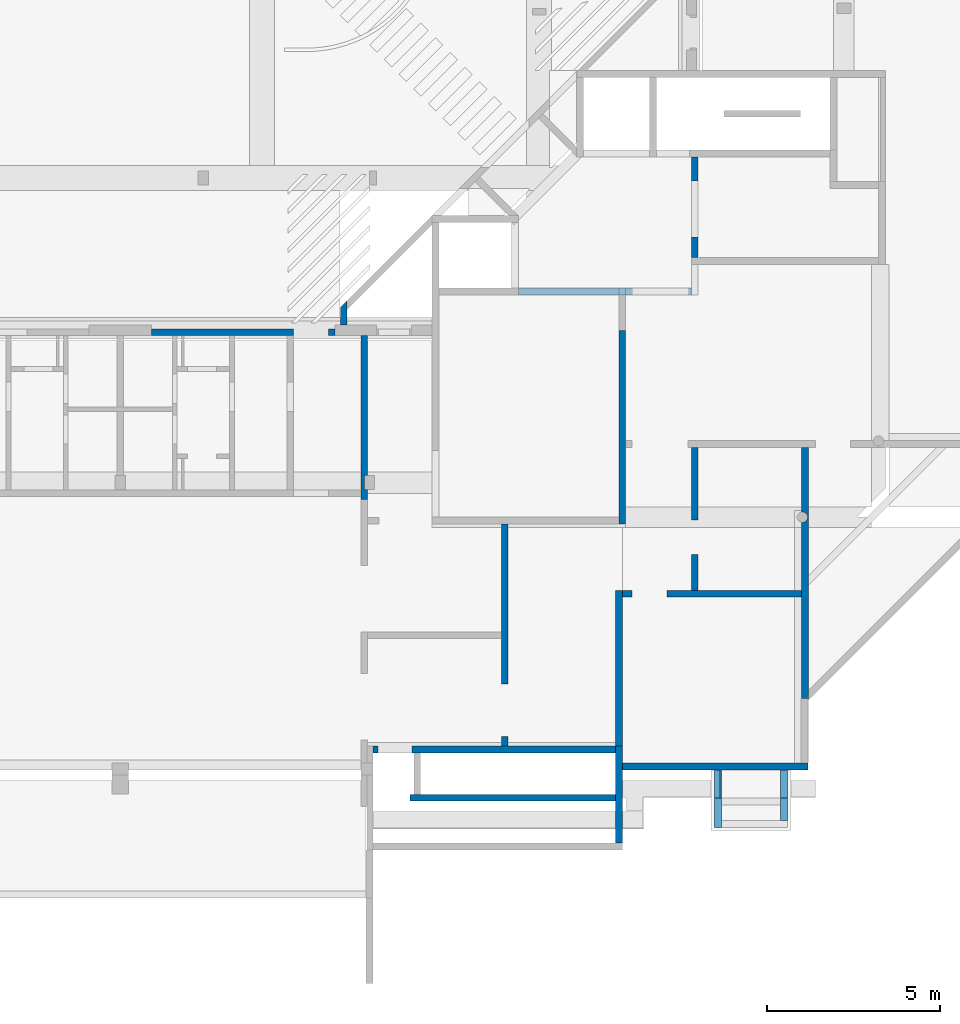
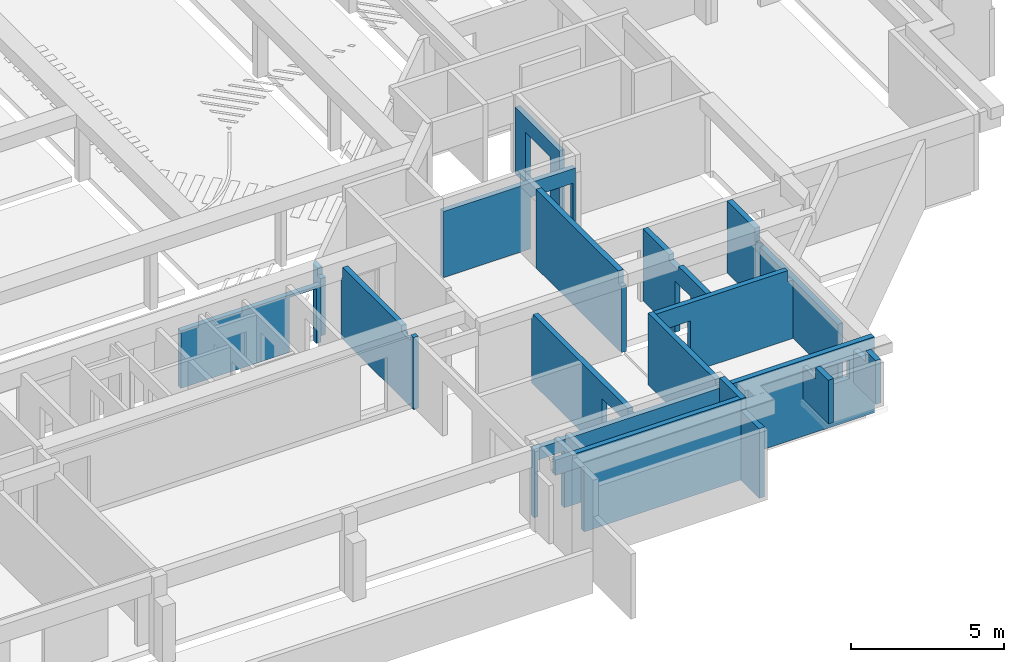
# One storey, part 16 of 22: 17 walls.
"""IFC4X3_ADD2 building model written with IfcOpenShell, lengths in millimetres."""

import ifcopenshell
import ifcopenshell.guid

model = None  # the IFC model being written
_history = None  # IfcOwnerHistory: only IFC2X3 demands one
_inside = {}  # id of a spatial element -> (the spatial element, [elements in it])
_under = {}  # id of a project, library or spatial element -> (it, [spatial elements below it])
_declared = {}  # id of a project -> (the project, [libraries it declares])
_typed = {}  # id of a type object -> (the type object, [elements of that type])
_made_of = {}  # id of a material, layer set ... -> (it, [elements and type objects made of it])


def new_model(schema):
    """Start an empty IFC model of exactly this schema.

    Asked for "IFC4X3", IfcOpenShell would pick the latest addendum, in which some entities
    have other attributes; the version numbers below select the first issue.
    IFC2X3 requires an IfcOwnerHistory on every rooted entity: one is made here for all.
    """
    global model, _history
    if schema == "IFC4X3":
        model = ifcopenshell.file(schema_version=(4, 3, 0, 0))
    else:
        model = ifcopenshell.file(schema=schema)
    _inside.clear()
    _under.clear()
    _declared.clear()
    _typed.clear()
    _made_of.clear()
    _history = None
    if model.schema == "IFC2X3":
        org = make("IfcOrganization", Name="unknown")
        user = make(
            "IfcPersonAndOrganization",
            ThePerson=make("IfcPerson", FamilyName="unknown"),
            TheOrganization=org,
        )
        app = make(
            "IfcApplication",
            ApplicationDeveloper=org,
            Version="unknown",
            ApplicationFullName="unknown",
            ApplicationIdentifier="unknown",
        )
        _history = make(
            "IfcOwnerHistory",
            OwningUser=user,
            OwningApplication=app,
            ChangeAction="ADDED",
            CreationDate=0,
        )
    return model


def make(cls, **values):
    """One entity of the class cls with the attributes given. An attribute that is None is left unset."""
    return model.create_entity(
        cls, **{name: value for name, value in values.items() if value is not None}
    )


def rooted(cls, **values):
    """An entity with a GlobalId (a new one), such as an element, a storey or a relation."""
    return make(cls, GlobalId=ifcopenshell.guid.new(), OwnerHistory=_history, **values)


def si_unit(unit_type, name, prefix=None):
    """IfcSIUnit, for example si_unit("LENGTHUNIT", "METRE", prefix="MILLI")."""
    return make("IfcSIUnit", UnitType=unit_type, Prefix=prefix, Name=name)


def assignment(units):
    """IfcUnitAssignment: the units of a project."""
    return None if units is None else make("IfcUnitAssignment", Units=units)


def point(xyz):
    """IfcCartesianPoint."""
    return None if xyz is None else make("IfcCartesianPoint", Coordinates=xyz)


def direction(xyz):
    """IfcDirection."""
    return None if xyz is None else make("IfcDirection", DirectionRatios=xyz)


def frame(location, z_axis=None, x_axis=None):
    """IfcAxis2Placement3D, a coordinate frame: its origin and axes. An axis left out is left unset."""
    return make(
        "IfcAxis2Placement3D",
        Location=point(location),
        Axis=direction(z_axis),
        RefDirection=direction(x_axis),
    )


def origin_with_axes():
    """The frame at (0, 0, 0) with the z axis (0, 0, 1) and the x axis (1, 0, 0) written out."""
    return frame((0.0, 0.0, 0.0), z_axis=(0.0, 0.0, 1.0), x_axis=(1.0, 0.0, 0.0))


def place(relative_to, where):
    """IfcLocalPlacement: puts the frame where relative to a parent placement (None: the world)."""
    return make(
        "IfcLocalPlacement", PlacementRelTo=relative_to, RelativePlacement=where
    )


def context(
    kind, dimensions, precision=None, world=None, true_north=None, identifier=None
):
    """IfcGeometricRepresentationContext, for example the 3D "Model" context."""
    return make(
        "IfcGeometricRepresentationContext",
        ContextIdentifier=identifier,
        ContextType=kind,
        CoordinateSpaceDimension=dimensions,
        Precision=precision,
        WorldCoordinateSystem=world,
        TrueNorth=true_north,
    )


def subcontext(parent, identifier, kind, view, scale=None):
    """IfcGeometricRepresentationSubContext, for example "Body" below "Model"."""
    return make(
        "IfcGeometricRepresentationSubContext",
        ContextIdentifier=identifier,
        ContextType=kind,
        ParentContext=parent,
        TargetScale=scale,
        TargetView=view,
    )


def project(units=None, contexts=None):
    """IfcProject with its units and contexts."""
    return rooted(
        "IfcProject",
        Name="project",
        RepresentationContexts=contexts,
        UnitsInContext=assignment(units),
    )


def spatial(cls, under=None, at=None, **own):
    """A site, building, storey or space (cls), placed at a placement, below another one or the project."""
    s = rooted(cls, ObjectPlacement=at, **own)
    if under is not None:
        _under.setdefault(under.id(), (under, []))[1].append(s)
    return s


def point_list(points):
    """IfcCartesianPointList2D or 3D."""
    cls = (
        "IfcCartesianPointList2D" if len(points[0]) == 2 else "IfcCartesianPointList3D"
    )
    return make(cls, CoordList=points)


def polygons(points, faces, closed=None, point_numbers=None):
    """IfcPolygonalFaceSet: a face is its outer loop, then its inner loops; points numbered from 1."""
    made = []
    for loops in faces:
        if len(loops) == 1:
            made.append(make("IfcIndexedPolygonalFace", CoordIndex=loops[0]))
        else:
            made.append(
                make(
                    "IfcIndexedPolygonalFaceWithVoids",
                    CoordIndex=loops[0],
                    InnerCoordIndices=loops[1:],
                )
            )
    return make(
        "IfcPolygonalFaceSet",
        Coordinates=point_list(points),
        Closed=closed,
        Faces=made,
        PnIndex=point_numbers,
    )


def shape(context_of_items, identifier, shape_type, items):
    """IfcShapeRepresentation: the items that make up one representation, for example the "Body"."""
    return make(
        "IfcShapeRepresentation",
        ContextOfItems=context_of_items,
        RepresentationIdentifier=identifier,
        RepresentationType=shape_type,
        Items=items,
    )


def made_of(thing, what):
    """Note that an element or type object is made of a material, layer set ...; save() writes the relation."""
    if what is not None:
        _made_of.setdefault(what.id(), (what, []))[1].append(thing)
    return thing


def element(
    cls,
    number,
    at=None,
    inside=None,
    cuts=None,
    type_object=None,
    material=None,
    context=None,
    identifier="Body",
    shape_type=None,
    held_by="IfcProductDefinitionShape",
    body=None,
    shapes=None,
    **own,
):
    """One element of the class cls, such as IfcWall. Its Tag is "e" and its number.

    at: its placement. inside: the storey or other place that contains it. cuts: it is an
    opening in that element (IfcRelVoidsElement). A single representation is given by context,
    identifier, shape_type and body (its items); several are given by shapes. held_by: the class
    of the entity that holds the representations. save() writes the other relations.
    """
    e = rooted(cls, Tag="e%d" % number, ObjectPlacement=at, **own)
    if body is not None:
        shapes = [shape(context, identifier, shape_type, body)]
    if shapes is not None:
        e.Representation = make(held_by, Representations=shapes)
    if inside is not None:
        _inside.setdefault(inside.id(), (inside, []))[1].append(e)
    if cuts is not None:
        rooted(
            "IfcRelVoidsElement", RelatingBuildingElement=cuts, RelatedOpeningElement=e
        )
    if type_object is not None:
        _typed.setdefault(type_object.id(), (type_object, []))[1].append(e)
    return made_of(e, material)


def aggregate(whole, parts):
    """IfcRelAggregates: a whole, such as a stair, and the parts it consists of."""
    return rooted("IfcRelAggregates", RelatingObject=whole, RelatedObjects=parts)


def save(model, path):
    """Write the relations noted so far, then the file.

    IfcRelAggregates (storeys below a building ...), IfcRelContainedInSpatialStructure (elements
    in a storey), IfcRelDefinesByType, IfcRelAssociatesMaterial and IfcRelDeclares: one each for
    every whole, place, type object, material and project.
    """
    for whole, parts in _under.values():
        aggregate(whole, parts)
    for where, things in _inside.values():
        rooted(
            "IfcRelContainedInSpatialStructure",
            RelatedElements=things,
            RelatingStructure=where,
        )
    for kind, things in _typed.values():
        rooted("IfcRelDefinesByType", RelatedObjects=things, RelatingType=kind)
    for what, things in _made_of.values():
        rooted("IfcRelAssociatesMaterial", RelatedObjects=things, RelatingMaterial=what)
    for by, libraries in _declared.values():
        rooted("IfcRelDeclares", RelatingContext=by, RelatedDefinitions=libraries)
    model.write(path)


model = new_model("IFC4X3_ADD2")

# Units and contexts
model_context = context("Model", 3, precision=1e-05, world=origin_with_axes(), true_north=direction((0.0, 1.0)))
body_context = subcontext(model_context, "Body", "Model", "MODEL_VIEW")
ifc_project = project(units=[si_unit("LENGTHUNIT", "METRE", prefix="MILLI"), si_unit("AREAUNIT", "SQUARE_METRE"), si_unit("VOLUMEUNIT", "CUBIC_METRE"), si_unit("PLANEANGLEUNIT", "RADIAN"), si_unit("TIMEUNIT", "SECOND"), si_unit("MASSUNIT", "GRAM")], contexts=[model_context])

# Site, building, storey
site_placement = place(None, origin_with_axes())
site = spatial("IfcSite", under=ifc_project, at=site_placement, Name="Site", CompositionType="ELEMENT")
building_placement = place(site_placement, origin_with_axes())
building = spatial("IfcBuilding", under=site, at=building_placement, Name="IFC Building Story")
storey_placement = place(building_placement, frame((0.0, 0.0, -3240.0), z_axis=(0.0, 0.0, 1.0), x_axis=(1.0, 0.0, 0.0)))
storey = spatial("IfcBuildingStorey", under=building, at=storey_placement, Name="K10", Elevation=-3240.0)

# Walls
wall_1_placement = place(storey_placement, frame((0.0, 0.0, 3240.0), z_axis=(0.0, 0.0, 1.0), x_axis=(1.0, 0.0, 0.0)))
element("IfcWall", 1, at=wall_1_placement, inside=storey, Name="Basic Wall:BB_XX_Wand uit beton, 200 mm", ObjectType="Basic Wall:BB_XX_Wand uit beton, 200 mm", PredefinedType="SOLIDWALL", context=body_context, shape_type="Tessellation", body=[
    polygons([(-21805.0, 395.0, -3340.0), (-21660.00000000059, 395.0, -3340.0), (-21660.00000000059, 395.0, -1080.0), (-20670.00000000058, 395.0, -1080.0), (-20670.00000000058, 395.0, -1140.0), (-20670.00000000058, 395.0, -3199.999999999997), (-20670.00000000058, 395.0, -3340.0), (-14800.0, 395.0, -3340.0), (-14800.0, 395.0, -610.0), (-21805.0, 395.0, -610.0), (-21660.00000000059, 595.0, -3340.0), (-21805.0, 595.0, -3340.0), (-21805.0, 595.0, -610.0), (-14800.0, 595.0, -610.0), (-14800.0, 595.0, -3340.0), (-20670.00000000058, 595.0, -3340.0), (-20670.00000000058, 595.0, -3199.999999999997), (-20670.00000000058, 595.0, -1140.0), (-20670.00000000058, 595.0, -1080.0), (-21660.00000000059, 595.0, -1080.0)], [[[6, 7, 8]], [[8, 9, 5]], [[8, 5, 6]], [[9, 4, 5]], [[4, 9, 10]], [[10, 3, 4]], [[10, 1, 2]], [[10, 2, 3]], [[20, 11, 12]], [[20, 12, 13]], [[13, 19, 20]], [[13, 14, 19]], [[14, 18, 19]], [[14, 15, 17]], [[14, 17, 18]], [[15, 16, 17]], [[9, 8, 15, 14]], [[2, 1, 12, 11]], [[10, 9, 14, 13]], [[1, 10, 13, 12]], [[3, 2, 11, 20]], [[4, 3, 20, 19]], [[17, 16, 7]], [[17, 7, 6]], [[6, 5, 18]], [[6, 18, 17]], [[5, 4, 19]], [[5, 19, 18]], [[8, 7, 16, 15]]]),
])
wall_2_placement = place(storey_placement, frame((0.0, 0.0, 3240.0), z_axis=(0.0, 0.0, 1.0), x_axis=(1.0, 0.0, 0.0)))
element("IfcWall", 2, at=wall_2_placement, inside=storey, Name="Basic Wall:BB_XX_Wand uit beton, 200 mm", ObjectType="Basic Wall:BB_XX_Wand uit beton, 200 mm", PredefinedType="SOLIDWALL", context=body_context, shape_type="Tessellation", body=[
    polygons([(-14800.0, 594.9999999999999, -3440.0), (-14800.0, -804.9999999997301, -3440.0), (-14800.0, -994.9999999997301, -3440.0), (-14800.0, -2204.99999999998, -3440.0), (-14800.0, -2204.99999999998, -660.0), (-14800.0, -994.9999999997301, -660.0), (-14800.0, -994.9999999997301, -200.0), (-14800.0, -804.9999999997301, -200.0), (-14800.0, 394.999999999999, -200.0), (-14800.0, 394.999999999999, -610.0), (-14800.0, 594.9999999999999, -610.0), (-14800.0, 594.9999999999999, -3340.0), (-14600.0, -2204.99999999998, -3440.0), (-14600.0, 594.9999999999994, -3440.0), (-14600.0, 594.9999999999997, -610.0), (-14600.0, 394.999999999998, -610.0), (-14600.0, 394.999999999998, -460.0), (-14600.0, 394.999999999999, -200.0), (-14600.0, 94.99999999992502, -200.0), (-14600.0, -105.0000000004, -200.0), (-14600.0, -994.9999999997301, -200.0), (-14600.0, -994.9999999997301, -660.0), (-14600.0, -2204.99999999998, -660.0)], [[[3, 4, 5]], [[3, 5, 6]], [[6, 7, 8]], [[8, 2, 3]], [[8, 3, 6]], [[10, 11, 12]], [[12, 1, 2]], [[2, 8, 10]], [[2, 10, 12]], [[8, 9, 10]], [[20, 21, 22]], [[20, 22, 17]], [[17, 19, 20]], [[17, 18, 19]], [[22, 23, 13]], [[13, 16, 22]], [[16, 17, 22]], [[13, 14, 15]], [[13, 15, 16]], [[12, 11, 15]], [[12, 15, 14]], [[14, 1, 12]], [[17, 16, 10]], [[10, 9, 18]], [[10, 18, 17]], [[10, 16, 15, 11]], [[5, 4, 13, 23]], [[2, 1, 14]], [[14, 13, 3]], [[14, 3, 2]], [[13, 4, 3]], [[8, 7, 21]], [[19, 18, 9]], [[9, 20, 19]], [[9, 8, 21]], [[9, 21, 20]], [[6, 5, 23, 22]], [[7, 6, 22, 21]]]),
])
wall_3_placement = place(storey_placement, frame((0.0, 0.0, 3240.0), z_axis=(0.0, 0.0, 1.0), x_axis=(1.0, 0.0, 0.0)))
element("IfcWall", 3, at=wall_3_placement, inside=storey, Name="Basic Wall:BB_XX_Wand uit metselwerk, 190 mm", ObjectType="Basic Wall:BB_XX_Wand uit metselwerk, 190 mm", PredefinedType="SOLIDWALL", context=body_context, shape_type="Tessellation", body=[
    polygons([(-14800.0, -805.0, -200.0), (-14800.0, -805.0, -3440.0), (-20725.0, -805.0, -3440.0), (-20725.0, -805.0, -810.0), (-21805.0, -805.0, -810.0), (-21805.0, -805.0, -200.0), (-14800.0, -994.9999999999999, -3440.0), (-14800.0, -995.0, -660.0), (-14800.0, -994.9999999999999, -200.0), (-21805.0, -994.9999999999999, -200.0), (-21805.0, -995.0, -540.0), (-21805.0, -994.9999999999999, -810.0), (-20725.0, -995.0, -810.0), (-20725.0, -995.0, -3440.0)], [[[4, 5, 6]], [[4, 6, 1]], [[1, 2, 3]], [[1, 3, 4]], [[8, 9, 10]], [[8, 10, 11]], [[13, 14, 7]], [[13, 7, 8]], [[8, 11, 13]], [[11, 12, 13]], [[3, 2, 7, 14]], [[4, 3, 14, 13]], [[1, 6, 10, 9]], [[5, 4, 13, 12]], [[11, 10, 6]], [[11, 6, 5]], [[5, 12, 11]], [[8, 7, 2]], [[8, 2, 1]], [[1, 9, 8]]]),
])
wall_4_placement = place(storey_placement, frame((0.0, 0.0, 3240.0), z_axis=(0.0, 0.0, 1.0), x_axis=(1.0, 0.0, 0.0)))
element("IfcWall", 4, at=wall_4_placement, inside=storey, Name="Basic Wall:BB_XX_Wand uit beton, 200 mm", ObjectType="Basic Wall:BB_XX_Wand uit beton, 200 mm", PredefinedType="SOLIDWALL", context=body_context, shape_type="Tessellation", body=[
    polygons([(-9235.0, 95.0, -3240.0), (-9435.0, 95.0, -3240.0), (-14599.99999999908, 95.0, -3240.0), (-14599.99999999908, 95.0, -200.0), (-9235.0, 95.0, -200.0), (-9235.0, 95.0, -900.0), (-11631.99999999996, 95.0, -1550.0), (-10181.99999999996, 95.0, -1550.0), (-10181.99999999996, 95.0, -785.0), (-11631.99999999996, 95.0, -785.0), (-9235.0, -105.0, -3240.0), (-9235.0, -105.0, -200.0), (-14599.99999999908, -105.0, -200.0), (-14599.99999999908, -105.0, -3240.0), (-11631.99999999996, -105.0, -1550.0), (-11631.99999999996, -105.0, -785.0), (-10181.99999999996, -105.0, -785.0), (-10181.99999999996, -105.0, -1550.0)], [[[8, 9, 6]], [[8, 6, 2]], [[2, 7, 8]], [[2, 3, 4]], [[2, 4, 7]], [[6, 1, 2]], [[10, 7, 4]], [[4, 5, 10]], [[5, 9, 10]], [[5, 6, 9]], [[15, 13, 14]], [[15, 14, 11]], [[11, 18, 15]], [[11, 12, 18]], [[12, 17, 18]], [[12, 16, 17]], [[16, 12, 13]], [[13, 15, 16]], [[4, 3, 14, 13]], [[6, 5, 12]], [[12, 11, 1]], [[12, 1, 6]], [[2, 1, 11]], [[11, 14, 3]], [[11, 3, 2]], [[5, 4, 13, 12]], [[8, 7, 15, 18]], [[9, 8, 18, 17]], [[10, 9, 17, 16]], [[7, 10, 16, 15]]]),
])
wall_5_placement = place(storey_placement, frame((0.0, 0.0, 3240.0), z_axis=(0.0, 0.0, 1.0), x_axis=(1.0, 0.0, 0.0)))
element("IfcWall", 5, at=wall_5_placement, inside=storey, Name="Basic Wall:BB_XX_Wand uit beton, 200 mm", ObjectType="Basic Wall:BB_XX_Wand uit beton, 200 mm", PredefinedType="SOLIDWALL", context=body_context, shape_type="Tessellation", body=[
    polygons([(-14700.0, 12600.0, -3240.0), (-14700.0, 7000.00000000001, -3240.0), (-14700.0, 7000.00000000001, -600.0), (-14700.0, 7200.0, -600.0), (-14700.0, 7200.0, -100.0), (-14700.0, 12600.0, -100.0), (-14500.0, 7000.00000000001, -3240.0), (-14500.0, 12600.0, -3240.0), (-14500.0, 12600.0, -100.0), (-14500.0, 7199.99999999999, -100.0), (-14499.99999999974, 7199.99999999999, -600.0), (-14500.0, 7000.00000000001, -600.0)], [[[4, 5, 6]], [[6, 1, 2]], [[6, 2, 4]], [[2, 3, 4]], [[11, 12, 7]], [[11, 7, 8]], [[11, 8, 9]], [[9, 10, 11]], [[11, 4, 3, 12]], [[4, 11, 10, 5]], [[2, 1, 8, 7]], [[2, 7, 12, 3]], [[9, 6, 5, 10]], [[1, 6, 9, 8]]]),
])
wall_6_placement = place(storey_placement, frame((0.0, 0.0, 3240.0), z_axis=(0.0, 0.0, 1.0), x_axis=(1.0, 0.0, 0.0)))
element("IfcWall", 6, at=wall_6_placement, inside=storey, Name="Basic Wall:BB_XX_Wand uit metselwerk, 190 mm", ObjectType="Basic Wall:BB_XX_Wand uit metselwerk, 190 mm", PredefinedType="SOLIDWALL", context=body_context, shape_type="Tessellation", body=[
    polygons([(-14600.0, 4900.0, -460.0), (-14600.0, 4900.0, -3240.0), (-14314.46970198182, 4900.0, -3240.0), (-14314.46970198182, 4900.0, -1180.0), (-13304.46970198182, 4899.999999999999, -1180.0), (-13304.46970198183, 4899.999999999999, -3240.0), (-9424.999999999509, 4900.0, -3240.0), (-9424.999999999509, 4900.0, -900.0), (-9624.999999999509, 4900.0, -900.0), (-9624.999999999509, 4900.0, -460.0), (-14600.0, 5090.0, -3240.0), (-14600.0, 5090.0, -460.0), (-9624.999999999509, 5090.0, -460.0), (-9624.999999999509, 5090.0, -900.0), (-9424.999999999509, 5090.0, -900.0), (-9424.999999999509, 5090.0, -3240.0), (-13304.46970198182, 5089.999999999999, -3240.0), (-13304.46970198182, 5089.999999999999, -1180.0), (-14314.46970198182, 5090.0, -1180.0), (-14314.46970198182, 5090.0, -3240.0)], [[[9, 10, 5]], [[5, 6, 7]], [[5, 7, 9]], [[7, 8, 9]], [[10, 1, 5]], [[1, 4, 5]], [[1, 2, 3]], [[1, 3, 4]], [[14, 15, 16]], [[19, 20, 11]], [[19, 11, 12]], [[12, 18, 19]], [[14, 16, 17]], [[14, 17, 18]], [[18, 12, 13]], [[18, 13, 14]], [[2, 11, 20, 3]], [[7, 16, 15, 8]], [[12, 1, 10, 13]], [[2, 1, 12, 11]], [[19, 4, 3, 20]], [[5, 18, 17, 6]], [[4, 19, 18, 5]], [[14, 9, 8, 15]], [[9, 14, 13, 10]], [[16, 7, 6, 17]]]),
])
wall_7_placement = place(storey_placement, frame((0.0, 0.0, 3240.0), z_axis=(0.0, 0.0, 1.0), x_axis=(1.0, 0.0, 0.0)))
element("IfcWall", 7, at=wall_7_placement, inside=storey, Name="Basic Wall:BB_XX_Wand uit metselwerk, 200 mm", ObjectType="Basic Wall:BB_XX_Wand uit metselwerk, 200 mm", PredefinedType="SOLIDWALL", context=body_context, shape_type="Tessellation", body=[
    polygons([(-9425.0, 1967.40981921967, -3240.0), (-9425.0, 1967.40981921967, -900.0), (-9425.0, 7052.09800542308, -900.0), (-9425.000000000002, 7052.09800542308, -1327.64471323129), (-9425.000000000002, 7052.09800542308, -1755.28942646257), (-9425.000000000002, 7052.09800542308, -2384.710573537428), (-9425.0, 7052.09800542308, -2812.355286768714), (-9425.0, 7052.09800542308, -3240.0), (-9425.0, 9215.0, -360.0), (-9425.0, 9215.0, -3240.0), (-9425.000000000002, 7347.90199457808, -3240.0), (-9425.000000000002, 7347.90199457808, -2812.356313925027), (-9425.000000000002, 7347.90199457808, -2384.71061392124), (-9425.000000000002, 7347.90199457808, -1755.28938607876), (-9425.000000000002, 7347.90199457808, -1327.64368607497), (-9425.000000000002, 7347.90199457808, -900.0), (-9425.000000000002, 7400.00000000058, -900.0), (-9425.000000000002, 7400.00000000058, -360.0), (-9225.0, 1967.40981921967, -3240.0), (-9225.0, 2198.83117545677, -3240.0), (-9225.0, 9215.0, -3240.0), (-9225.0, 9215.0, -360.0), (-9225.0, 7400.00000000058, -360.0), (-9225.0, 7400.00000000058, -900.0), (-9225.0, 1967.40981921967, -900.0), (-9369.46009950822, 7053.14185593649, -2681.625852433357), (-9380.502006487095, 7051.272637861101, -2070.00000008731), (-9334.302590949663, 7065.152491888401, -2070.00000002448), (-9334.302590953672, 7065.15249188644, -2698.574245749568), (-9334.302590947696, 7065.15249188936, -1441.42575422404), (-9309.849861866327, 7080.1127504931, -2069.99999995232), (-9303.175416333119, 7085.43560763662, -1610.15153807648), (-9277.988132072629, 7112.74689641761, -2070.00000002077), (-9318.108604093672, 7074.32661667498, -900.0), (-9351.508054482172, 7058.054477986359, -3240.0), (-9398.41540578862, 7050.00837003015, -1541.46706993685), (-9369.460099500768, 7053.14185593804, -1458.37414770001), (-9387.882336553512, 7050.49026040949, -3240.0), (-9387.882336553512, 7050.49026040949, -900.0), (-9260.285900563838, 7145.41089468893, -2681.625852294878), (-9254.601019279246, 7163.133532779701, -3240.0), (-9268.121818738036, 7128.52870991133, -3240.0), (-9289.732938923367, 7098.30843082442, -3240.0), (-9318.108604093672, 7074.32661667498, -3240.0), (-9303.175416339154, 7085.43560763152, -2529.848461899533), (-9351.508054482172, 7058.054477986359, -900.0), (-9277.988132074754, 7112.74689641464, -2698.574245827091), (-9250.000000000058, 7200.00000000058, -1755.28942594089), (-9250.000000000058, 7200.00000000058, -2384.710574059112), (-9256.602508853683, 7155.98682546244, -2069.99999994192), (-9252.370357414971, 7173.438964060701, -2598.532930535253), (-9250.000000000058, 7200.00000000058, -2812.355287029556), (-9250.000000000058, 7200.00000000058, -3240.0), (-9254.601019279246, 7163.133532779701, -900.0), (-9250.000000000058, 7200.00000000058, -900.0), (-9250.000000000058, 7200.00000000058, -1327.64471297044), (-9260.285900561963, 7145.41089469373, -1458.37414761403), (-9268.121818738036, 7128.52870991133, -900.0), (-9289.732938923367, 7098.30843082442, -900.0), (-9398.415405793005, 7050.00837003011, -2598.532930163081), (-9252.370357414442, 7173.43896406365, -1541.46706939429), (-9277.988132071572, 7112.74689641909, -1441.42575414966), (-9252.370357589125, 7226.56103690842, -2598.532922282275), (-9252.370357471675, 7226.56103625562, -1541.46706885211), (-9369.460099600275, 7346.85814408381, -2681.625852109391), (-9387.882336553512, 7349.50973959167, -3240.0), (-9351.50805448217, 7341.9455220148, -3240.0), (-9256.6025091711, 7244.01317557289, -2069.99998823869), (-9260.285900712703, 7254.58910569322, -1458.3741395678), (-9303.175416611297, 7314.56439259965, -1610.15153688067), (-9334.302591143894, 7334.84750820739, -2069.99999977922), (-9296.8146011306, 7308.87044346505, -2069.9999987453), (-9289.732938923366, 7301.69156917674, -900.0), (-9277.988132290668, 7287.25310388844, -1441.42575216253), (-9268.121818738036, 7271.47129008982, -3240.0), (-9260.285900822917, 7254.5891059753, -2681.625851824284), (-9277.988132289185, 7287.25310388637, -2698.574246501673), (-9254.601019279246, 7236.86646722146, -3240.0), (-9254.601019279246, 7236.86646722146, -900.0), (-9318.10860409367, 7325.673383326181, -3240.0), (-9289.732938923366, 7301.69156917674, -3240.0), (-9303.175416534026, 7314.56439253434, -2529.848462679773), (-9268.121818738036, 7271.47129008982, -900.0), (-9277.988132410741, 7287.25310405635, -2069.99999759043), (-9334.302591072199, 7334.84750817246, -2698.574243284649), (-9380.50200658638, 7348.72736215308, -2069.99999914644), (-9398.415405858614, 7349.99162997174, -2598.532928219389), (-9387.882336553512, 7349.50973959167, -900.0), (-9369.460099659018, 7346.85814409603, -1458.37414650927), (-9351.50805448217, 7341.9455220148, -900.0), (-9318.10860409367, 7325.673383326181, -900.0), (-9398.4154058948, 7349.99162997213, -1541.46707076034), (-9334.302591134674, 7334.8475082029, -1441.42575534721), (-9235.000000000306, 1967.40981921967, -3240.0), (-9235.000000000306, 1967.40981921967, -900.0)], [[[7, 8, 1]], [[1, 6, 7]], [[1, 2, 5]], [[1, 5, 6]], [[2, 4, 5]], [[2, 3, 4]], [[17, 18, 9]], [[9, 15, 17]], [[15, 16, 17]], [[9, 14, 15]], [[9, 10, 13]], [[9, 13, 14]], [[10, 12, 13]], [[10, 11, 12]], [[24, 25, 20]], [[24, 20, 21]], [[21, 22, 24]], [[22, 23, 24]], [[25, 19, 20]], [[26, 27, 28]], [[29, 28, 30, 31]], [[27, 6, 5]], [[32, 33, 31]], [[34, 32, 30]], [[35, 26, 29]], [[36, 37, 27]], [[38, 8, 7]], [[4, 3, 39]], [[40, 41, 42]], [[43, 44, 45]], [[37, 39, 46]], [[46, 30, 37]], [[45, 29, 31]], [[38, 26, 35]], [[42, 47, 40]], [[43, 47, 42]], [[48, 49, 50]], [[40, 50, 51]], [[52, 53, 41]], [[54, 55, 56]], [[54, 57, 58]], [[59, 32, 34]], [[6, 60, 7]], [[5, 4, 36]], [[61, 48, 50]], [[50, 33, 57]], [[57, 54, 61]], [[34, 30, 46]], [[32, 62, 33]], [[33, 47, 45]], [[43, 45, 47]], [[58, 57, 62]], [[29, 44, 35]], [[26, 38, 60]], [[39, 36, 4]], [[27, 37, 28]], [[62, 59, 58]], [[56, 61, 54]], [[41, 51, 52]], [[50, 40, 33]], [[48, 61, 56]], [[49, 52, 51]], [[57, 61, 50]], [[44, 29, 45]], [[29, 26, 28]], [[30, 28, 37]], [[59, 62, 32]], [[62, 57, 33]], [[47, 33, 40]], [[6, 27, 60]], [[7, 60, 38]], [[26, 60, 27]], [[5, 36, 27]], [[37, 36, 39]], [[49, 51, 50]], [[40, 51, 41]], [[45, 31, 33]], [[32, 31, 30]], [[49, 63, 52]], [[48, 56, 64]], [[65, 66, 67]], [[68, 64, 69]], [[70, 71, 72]], [[73, 70, 74]], [[75, 76, 77]], [[78, 53, 52]], [[56, 55, 79]], [[76, 75, 78]], [[80, 81, 82]], [[69, 79, 83]], [[83, 74, 69]], [[82, 77, 72]], [[77, 84, 74, 72]], [[67, 85, 65]], [[80, 85, 67]], [[14, 13, 86]], [[65, 86, 87]], [[12, 11, 66]], [[88, 16, 15]], [[88, 89, 90]], [[68, 84, 76]], [[91, 70, 73]], [[68, 49, 48]], [[92, 14, 86]], [[86, 71, 89]], [[89, 88, 92]], [[73, 74, 83]], [[70, 93, 71]], [[71, 85, 82]], [[80, 82, 85]], [[90, 89, 93]], [[77, 81, 75]], [[76, 78, 63]], [[79, 64, 56]], [[68, 69, 84]], [[93, 91, 90]], [[15, 92, 88]], [[66, 87, 12]], [[86, 65, 71]], [[14, 92, 15]], [[13, 12, 87]], [[89, 92, 86]], [[81, 77, 82]], [[77, 76, 84]], [[74, 84, 69]], [[91, 93, 70]], [[93, 89, 71]], [[85, 71, 65]], [[49, 68, 63]], [[52, 63, 78]], [[76, 63, 68]], [[48, 64, 68]], [[69, 64, 79]], [[13, 87, 86]], [[65, 87, 66]], [[82, 72, 71]], [[70, 72, 74]], [[94, 1, 20]], [[20, 19, 94]], [[66, 11, 10]], [[10, 21, 67]], [[10, 67, 66]], [[21, 80, 67]], [[21, 81, 80]], [[21, 75, 81]], [[21, 78, 75]], [[21, 53, 78]], [[53, 21, 20]], [[20, 41, 53]], [[20, 42, 41]], [[20, 43, 42]], [[20, 44, 43]], [[20, 35, 44]], [[20, 38, 35]], [[20, 1, 8]], [[20, 8, 38]], [[94, 19, 25]], [[94, 25, 95]], [[95, 2, 1]], [[95, 1, 94]], [[18, 17, 24, 23]], [[9, 18, 23, 22]], [[95, 25, 24]], [[39, 3, 2]], [[39, 2, 95]], [[95, 46, 39]], [[95, 34, 46]], [[95, 59, 34]], [[95, 58, 59]], [[95, 54, 58]], [[95, 55, 54]], [[95, 24, 55]], [[24, 79, 55]], [[24, 83, 79]], [[24, 73, 83]], [[24, 91, 73]], [[24, 17, 90]], [[24, 90, 91]], [[17, 88, 90]], [[17, 16, 88]], [[10, 9, 22, 21]]]),
])
wall_8_placement = place(storey_placement, frame((0.0, 0.0, 3240.0), z_axis=(0.0, 0.0, 1.0), x_axis=(1.0, 0.0, 0.0)))
element("IfcWall", 8, at=wall_8_placement, inside=storey, Name="Basic Wall:BB_XX_Wand uit metselwerk, 190 mm", ObjectType="Basic Wall:BB_XX_Wand uit metselwerk, 190 mm", PredefinedType="SOLIDWALL", context=body_context, shape_type="Tessellation", body=[
    polygons([(-12602.4697019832, 5090.00000000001, -3240.0), (-12602.4697019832, 5090.00000000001, -460.0), (-12602.4697019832, 6900.000000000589, -460.0), (-12602.4697019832, 6900.000000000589, -600.0), (-12602.4697019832, 7500.00000000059, -600.0), (-12602.4697019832, 7500.00000000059, -360.0), (-12602.4697019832, 9214.999999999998, -360.0), (-12602.4697019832, 9214.999999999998, -3240.0), (-12602.4697019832, 7126.6303789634, -3240.0), (-12602.4697019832, 7126.6303789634, -1180.0), (-12602.4697019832, 6116.6303789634, -1180.0), (-12602.4697019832, 6116.6303789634, -3240.0), (-12412.4697019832, 5090.00000000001, -460.0), (-12412.4697019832, 5090.00000000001, -3240.0), (-12412.4697019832, 6116.6303789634, -3240.0), (-12412.4697019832, 6116.6303789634, -1180.0), (-12412.4697019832, 7126.6303789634, -1180.0), (-12412.4697019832, 7126.6303789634, -3240.0), (-12412.4697019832, 9214.999999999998, -3240.0), (-12412.4697019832, 9214.999999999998, -360.0), (-12412.4697019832, 7500.00000000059, -360.0), (-12412.4697019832, 7500.00000000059, -600.0), (-12412.4697019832, 6900.000000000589, -600.0), (-12412.4697019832, 6900.000000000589, -460.0)], [[[5, 6, 7]], [[10, 4, 5]], [[5, 7, 8]], [[5, 8, 9]], [[5, 9, 10]], [[11, 12, 1]], [[11, 1, 2]], [[2, 4, 11]], [[4, 10, 11]], [[2, 3, 4]], [[22, 17, 18]], [[22, 18, 19]], [[22, 19, 20]], [[20, 21, 22]], [[22, 23, 17]], [[23, 24, 16]], [[16, 17, 23]], [[16, 24, 13]], [[13, 14, 15]], [[13, 15, 16]], [[23, 4, 3, 24]], [[4, 23, 22, 5]], [[11, 16, 15, 12]], [[17, 10, 9, 18]], [[16, 11, 10, 17]], [[1, 12, 15, 14]], [[2, 1, 14, 13]], [[2, 13, 24, 3]], [[8, 7, 20, 19]], [[5, 22, 21, 6]], [[7, 6, 21, 20]], [[19, 18, 9, 8]]]),
])
wall_9_placement = place(storey_placement, frame((0.0, 0.0, 3240.0), z_axis=(0.0, 0.0, 1.0), x_axis=(1.0, 0.0, 0.0)))
element("IfcWall", 9, at=wall_9_placement, inside=storey, Name="Basic Wall:BB_XX_Wand uit metselwerk, 190 mm", ObjectType="Basic Wall:BB_XX_Wand uit metselwerk, 190 mm", PredefinedType="SOLIDWALL", context=body_context, shape_type="Tessellation", body=[
    polygons([(-12600.00000000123, 13625.0, -600.0), (-17600.0, 13625.0, -600.0), (-17600.0, 13625.0, -3240.0), (-14303.81370318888, 13625.0, -3240.0), (-14303.81370318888, 13625.0, -1180.0), (-12693.81370318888, 13625.0, -1180.0), (-12693.81370318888, 13625.0, -3240.0), (-12600.00000000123, 13625.0, -3240.0), (-17600.0, 13815.0, -600.0), (-12600.00000000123, 13815.0, -600.0), (-12600.00000000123, 13815.0, -3240.0), (-12693.81370318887, 13815.0, -3240.0), (-12693.81370318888, 13815.0, -1180.0), (-14303.81370318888, 13815.0, -1180.0), (-14303.81370318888, 13815.0, -3240.0), (-17600.0, 13815.0, -3240.0)], [[[6, 7, 8]], [[6, 8, 1]], [[1, 5, 6]], [[5, 1, 2]], [[2, 3, 4]], [[2, 4, 5]], [[14, 15, 16]], [[14, 16, 9]], [[9, 10, 14]], [[10, 13, 14]], [[10, 11, 12]], [[10, 12, 13]], [[3, 16, 15, 4]], [[2, 1, 10, 9]], [[3, 2, 9, 16]], [[1, 8, 11, 10]], [[14, 5, 4, 15]], [[6, 13, 12, 7]], [[5, 14, 13, 6]], [[11, 8, 7, 12]]]),
])
wall_10_placement = place(storey_placement, frame((0.0, 0.0, 3240.0), z_axis=(0.0, 0.0, 1.0), x_axis=(1.0, 0.0, 0.0)))
element("IfcWall", 10, at=wall_10_placement, inside=storey, Name="Basic Wall:BB_XX_Wand uit metselwerk, 190 mm", ObjectType="Basic Wall:BB_XX_Wand uit metselwerk, 190 mm", PredefinedType="SOLIDWALL", context=body_context, shape_type="Tessellation", body=[
    polygons([(-12410.0, 17599.99999999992, -3240.0), (-12410.0, 17599.99999999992, -580.0), (-12410.0, 14700.0, -580.0), (-12410.0, 14700.0, -3240.0), (-12410.0, 15300.00000000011, -3240.0), (-12410.0, 15300.00000000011, -1180.0), (-12410.0, 16910.00000000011, -1180.0), (-12410.0, 16910.00000000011, -3240.0), (-12600.0, 17599.99999999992, -580.0), (-12600.0, 17599.99999999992, -3240.0), (-12600.0, 16910.00000000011, -3240.0), (-12600.0, 16910.00000000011, -1180.0), (-12600.0, 15300.00000000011, -1180.0), (-12600.0, 15300.00000000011, -3240.0), (-12600.0, 14700.0, -3240.0), (-12600.0, 14700.0, -580.0)], [[[7, 8, 1]], [[7, 1, 2]], [[2, 3, 6]], [[2, 6, 7]], [[3, 4, 5]], [[3, 5, 6]], [[13, 14, 15]], [[13, 15, 16]], [[16, 9, 12]], [[16, 12, 13]], [[9, 10, 11]], [[9, 11, 12]], [[4, 15, 14, 5]], [[2, 1, 10, 9]], [[3, 2, 9, 16]], [[4, 3, 16, 15]], [[7, 12, 11, 8]], [[13, 6, 5, 14]], [[12, 7, 6, 13]], [[10, 1, 8, 11]]]),
])
wall_11_placement = place(storey_placement, frame((0.0, 0.0, 3240.0), z_axis=(0.0, 0.0, 1.0), x_axis=(1.0, 0.0, 0.0)))
element("IfcWall", 11, at=wall_11_placement, inside=storey, Name="Basic Wall:BB_XX_Wand uit metselwerk, 190 mm", ObjectType="Basic Wall:BB_XX_Wand uit metselwerk, 190 mm", PredefinedType="SOLIDWALL", context=body_context, shape_type="Tessellation", body=[
    polygons([(-22900.0, 12640.0, -3240.0), (-23080.0, 12640.0, -3240.0), (-23080.0, 12640.0, -1050.0), (-24090.0, 12640.0, -1050.0), (-24090.0, 12640.0, -3240.0), (-28200.00000000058, 12640.0, -3240.0), (-28200.00000000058, 12640.0, -950.0), (-22900.0, 12640.0, -950.0), (-22900.0, 12450.0, -3240.0), (-22900.0, 12450.0, -950.0), (-28200.00000000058, 12450.0, -950.0), (-28200.00000000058, 12450.0, -3240.0), (-24090.0, 12450.0, -3240.0), (-24090.0, 12450.0, -1050.0), (-23080.0, 12450.0, -1050.0), (-23080.0, 12450.0, -3240.0)], [[[4, 5, 6]], [[4, 6, 7]], [[7, 8, 4]], [[8, 3, 4]], [[8, 1, 2]], [[8, 2, 3]], [[15, 16, 9]], [[15, 9, 10]], [[10, 14, 15]], [[14, 10, 11]], [[11, 12, 13]], [[11, 13, 14]], [[2, 1, 9, 16]], [[7, 6, 12, 11]], [[8, 7, 11, 10]], [[1, 8, 10, 9]], [[3, 2, 16, 15]], [[4, 3, 15, 14]], [[5, 4, 14, 13]], [[6, 5, 13, 12]]]),
])
wall_12_placement = place(storey_placement, frame((0.0, 0.0, 3240.0), z_axis=(0.0, 0.0, 1.0), x_axis=(1.0, 0.0, 0.0)))
element("IfcWall", 12, at=wall_12_placement, inside=storey, Name="Basic Wall:BB_XX_Wand uit metselwerk, 190 mm", ObjectType="Basic Wall:BB_XX_Wand uit metselwerk, 190 mm", PredefinedType="SOLIDWALL", context=body_context, shape_type="Tessellation", body=[
    polygons([(-14790.0, 5090.0, -3340.0), (-14790.0, 595.0000000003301, -3340.0), (-14790.0, 595.0000000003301, -610.0), (-14790.0, 695.0000000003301, -610.0), (-14790.0, 695.0000000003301, -460.0), (-14790.0, 5090.0, -460.0), (-14600.0, 595.0000000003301, -3340.0), (-14600.0, 5090.0, -3340.0), (-14600.0, 5090.0, -460.0), (-14600.0, 695.0000000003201, -460.0), (-14599.99999999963, 695.0000000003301, -610.0), (-14600.0, 595.0000000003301, -610.0)], [[[4, 5, 6]], [[6, 1, 2]], [[6, 2, 4]], [[2, 3, 4]], [[11, 12, 7]], [[11, 7, 8]], [[11, 8, 9]], [[9, 10, 11]], [[9, 6, 5, 10]], [[2, 1, 8, 7]], [[2, 7, 12, 3]], [[6, 9, 8, 1]], [[11, 4, 3, 12]], [[4, 11, 10, 5]]]),
])
wall_13_placement = place(storey_placement, frame((0.0, 0.0, 3240.0), z_axis=(0.0, 0.0, 1.0), x_axis=(1.0, 0.0, 0.0)))
element("IfcWall", 13, at=wall_13_placement, inside=storey, Name="Basic Wall:BB_03.09.24#05_Wand uit metselwerk_EI60, 190 mm", ObjectType="Basic Wall:BB_03.09.24#05_Wand uit metselwerk_EI60, 190 mm", PredefinedType="SOLIDWALL", context=body_context, shape_type="Tessellation", body=[
    polygons([(-17905.0, 7000.00000000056, -3240.0), (-17905.0, 7000.00000000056, -600.0), (-17905.0, 6912.50000000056, -600.0), (-17905.0, 6912.50000000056, -460.0), (-17905.0, 695.000000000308, -460.0), (-17905.0, 695.000000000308, -610.0), (-17905.0, 595.0, -610.0), (-17905.0, 595.0, -3240.0), (-17905.0, 870.0, -3240.0), (-17905.0, 870.0, -1080.0), (-17905.0, 2390.0, -1080.0), (-17905.0, 2390.0, -3240.0), (-18095.0, 7000.00000000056, -600.0), (-18095.0, 7000.00000000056, -3240.0), (-18095.0, 3885.00000000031, -3240.0), (-18095.0, 3695.00000000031, -3240.0), (-18095.0, 2390.0, -3240.0), (-18095.0, 2390.0, -1080.0), (-18095.0, 869.999999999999, -1080.0), (-18095.0, 869.999999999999, -3240.0), (-18095.0, 595.0, -3240.0), (-18095.0, 595.0, -610.0), (-18095.0, 695.000000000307, -610.0), (-18095.0, 695.000000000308, -460.0), (-18095.0, 3695.00000000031, -460.0), (-18095.0, 3885.00000000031, -460.0), (-18095.0, 6912.50000000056, -460.0), (-18095.0, 6912.50000000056, -600.0)], [[[6, 7, 8]], [[6, 8, 9]], [[6, 9, 10]], [[10, 11, 3]], [[10, 3, 4]], [[10, 4, 5]], [[10, 5, 6]], [[11, 12, 1]], [[11, 1, 3]], [[1, 2, 3]], [[19, 20, 21]], [[19, 21, 22]], [[23, 24, 25]], [[23, 25, 18]], [[23, 18, 19]], [[19, 22, 23]], [[25, 16, 17]], [[25, 17, 18]], [[25, 26, 15]], [[25, 15, 16]], [[28, 13, 14]], [[28, 14, 15]], [[28, 15, 26]], [[26, 27, 28]], [[8, 21, 20, 9]], [[2, 1, 14, 13]], [[25, 24, 5]], [[5, 26, 25]], [[5, 4, 26]], [[4, 27, 26]], [[8, 7, 22, 21]], [[3, 2, 13, 28]], [[4, 3, 28, 27]], [[6, 5, 24, 23]], [[7, 6, 23, 22]], [[10, 19, 18, 11]], [[11, 18, 17, 12]], [[19, 10, 9, 20]], [[15, 14, 1]], [[15, 1, 12]], [[12, 16, 15]], [[12, 17, 16]]]),
])
wall_14_placement = place(storey_placement, frame((0.0, 0.0, 3240.0), z_axis=(0.0, 0.0, 1.0), x_axis=(1.0, 0.0, 0.0)))
element("IfcWall", 14, at=wall_14_placement, inside=storey, Name="Basic Wall:BB_03.09.24#05_Wand uit metselwerk_EI60, 190 mm", ObjectType="Basic Wall:BB_03.09.24#05_Wand uit metselwerk_EI60, 190 mm", PredefinedType="SOLIDWALL", context=body_context, shape_type="Tessellation", body=[
    polygons([(-21955.0, 12350.0, -460.0), (-21955.0, 8510.000000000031, -460.0), (-21955.0, 8510.000000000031, -700.0), (-21955.0, 8400.000000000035, -700.0), (-21955.0, 8400.000000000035, -3340.0), (-21955.0, 12450.00000000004, -3340.0), (-21955.0, 12450.00000000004, -950.0), (-21955.0, 12350.0, -950.0), (-22145.0, 8510.00000000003, -460.0), (-22145.0, 12350.0, -460.0), (-22145.0, 12350.0, -950.0), (-22145.0, 12450.00000000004, -950.0), (-22145.0, 12450.00000000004, -3340.0), (-22145.0, 7989.999999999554, -3340.0), (-22145.0, 7799.999999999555, -3340.0), (-22145.0, 7712.4999999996, -3340.0), (-22145.0, 7712.4999999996, -460.0), (-22145.0, 7799.999999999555, -460.0), (-22145.0, 7890.000000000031, -460.0), (-22145.0, 7894.999999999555, -460.0), (-22145.0, 7894.999999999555, -700.0), (-22145.0, 7989.999999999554, -700.0), (-22145.0, 8510.00000000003, -700.0), (-21955.0, 7894.999999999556, -700.0), (-21955.0, 8000.000000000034, -700.0), (-22050.00000000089, 8000.000000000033, -700.0), (-22050.00000000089, 8400.000000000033, -700.0), (-21955.0, 7894.999999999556, -460.0), (-21955.0, 7712.499999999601, -460.0), (-22050.00000000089, 8400.000000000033, -3340.0), (-22050.00000000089, 8000.000000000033, -3340.0), (-21955.0, 8000.000000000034, -3340.0), (-21955.0, 7712.499999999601, -3340.0)], [[[3, 4, 5]], [[8, 1, 2]], [[8, 2, 3]], [[3, 5, 6]], [[3, 6, 8]], [[6, 7, 8]], [[11, 12, 13]], [[15, 16, 17]], [[15, 17, 18]], [[21, 22, 14]], [[21, 14, 15]], [[15, 19, 21]], [[19, 20, 21]], [[15, 18, 19]], [[23, 9, 10]], [[23, 10, 11]], [[23, 11, 13]], [[23, 13, 14]], [[14, 22, 23]], [[2, 1, 10, 9]], [[3, 2, 9, 23]], [[22, 21, 24]], [[22, 24, 25]], [[27, 4, 3]], [[27, 3, 23]], [[23, 22, 26]], [[23, 26, 27]], [[22, 25, 26]], [[7, 6, 13, 12]], [[28, 24, 21, 20]], [[18, 17, 29]], [[29, 28, 19]], [[29, 19, 18]], [[28, 20, 19]], [[1, 8, 11, 10]], [[8, 7, 12, 11]], [[31, 32, 14]], [[14, 30, 31]], [[30, 14, 13]], [[13, 6, 5]], [[13, 5, 30]], [[32, 33, 15]], [[32, 15, 14]], [[33, 16, 15]], [[33, 29, 17, 16]], [[27, 30, 5, 4]], [[30, 27, 26, 31]], [[31, 26, 25, 32]], [[24, 28, 29]], [[24, 29, 33]], [[24, 33, 32]], [[32, 25, 24]]]),
])
wall_15_placement = place(storey_placement, frame((0.0, 0.0, 3240.0), z_axis=(0.0, 0.0, 1.0), x_axis=(1.0, 0.0, 0.0)))
element("IfcWall", 15, at=wall_15_placement, inside=storey, Name="Basic Wall:BB_XX_Wand uit beton, 200 mm", ObjectType="Basic Wall:BB_XX_Wand uit beton, 200 mm", PredefinedType="SOLIDWALL", context=body_context, shape_type="Tessellation", body=[
    polygons([(-11932.0, -105.0, -1750.0), (-11932.0, -1755.01699778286, -1750.0), (-11932.0, -1755.01699778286, 0.0), (-11932.0, -905.016997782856, 0.0), (-11932.0, -905.016997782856, -450.0007629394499), (-11932.0, -105.0, -450.0007629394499), (-11732.0, -1755.01699778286, -1750.0), (-11732.0, -1555.01699778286, -1750.0), (-11732.0, -105.0, -1750.0), (-11732.0, -105.0, -650.0007629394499), (-11732.0, -1105.01699778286, -650.0007629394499), (-11732.0, -1105.01699778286, -450.0007629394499), (-11732.0, -905.016997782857, -450.0007629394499), (-11732.0, -905.016997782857, 0.0), (-11732.0, -1105.01699778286, 0.0), (-11732.0, -1555.01699778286, 0.0), (-11732.0, -1755.01699778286, 0.0), (-11782.0, -905.016997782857, -450.0007629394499), (-11782.00000000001, -105.0, -450.0007629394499), (-11782.00000000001, -105.0, -650.0007629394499), (-11782.0, -1105.01699778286, -650.0007629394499), (-11782.0, -1105.01699778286, -450.0007629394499)], [[[5, 6, 1]], [[1, 2, 3]], [[1, 3, 5]], [[3, 4, 5]], [[15, 16, 12]], [[12, 13, 14]], [[12, 14, 15]], [[16, 11, 12]], [[11, 16, 8]], [[8, 9, 10]], [[8, 10, 11]], [[16, 17, 7]], [[16, 7, 8]], [[3, 2, 7, 17]], [[8, 7, 2]], [[2, 1, 9]], [[2, 9, 8]], [[15, 14, 4]], [[4, 3, 16]], [[4, 16, 15]], [[3, 17, 16]], [[6, 5, 18, 19]], [[18, 5, 4]], [[18, 4, 14]], [[14, 13, 18]], [[20, 21, 11, 10]], [[22, 18, 13, 12]], [[21, 22, 12, 11]], [[18, 22, 21]], [[21, 20, 19]], [[21, 19, 18]], [[20, 10, 9]], [[9, 1, 6]], [[9, 6, 20]], [[6, 19, 20]]]),
])
wall_16_placement = place(storey_placement, frame((0.0, 0.0, 3240.0), z_axis=(0.0, 0.0, 1.0), x_axis=(1.0, 0.0, 0.0)))
element("IfcWall", 16, at=wall_16_placement, inside=storey, Name="Basic Wall:BB_XX_Wand uit beton, 200 mm", ObjectType="Basic Wall:BB_XX_Wand uit beton, 200 mm", PredefinedType="SOLIDWALL", context=body_context, shape_type="Tessellation", body=[
    polygons([(-9831.999999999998, -1555.01699778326, -1750.0), (-9831.999999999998, -105.0000000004, -1750.0), (-9831.999999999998, -105.0000000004, -450.0007629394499), (-9831.999999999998, -905.01699778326, -450.0007629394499), (-9831.999999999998, -905.01699778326, 0.0), (-9831.999999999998, -1555.01699778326, 0.0), (-10032.0, -1555.01699778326, -1750.0), (-10032.0, -1555.01699778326, 0.0), (-10032.0, -1105.01699778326, 0.0), (-10032.0, -905.01699778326, 0.0), (-10032.0, -905.01699778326, -450.0007629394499), (-10032.0, -105.0000000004, -450.0007629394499), (-10032.0, -105.0000000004, -650.0007629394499), (-10032.0, -105.0000000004, -1750.0)], [[[4, 5, 6]], [[4, 6, 1]], [[1, 2, 3]], [[1, 3, 4]], [[13, 14, 7]], [[13, 7, 11]], [[11, 12, 13]], [[7, 9, 11]], [[9, 10, 11]], [[7, 8, 9]], [[1, 6, 8, 7]], [[2, 1, 7, 14]], [[9, 8, 6]], [[9, 6, 5]], [[5, 10, 9]], [[4, 3, 12, 11]], [[5, 4, 11, 10]], [[13, 12, 3]], [[3, 2, 14]], [[3, 14, 13]]]),
])
wall_17_placement = place(storey_placement, frame((0.0, 0.0, 3240.0), z_axis=(0.0, 0.0, 1.0), x_axis=(1.0, 0.0, 0.0)))
element("IfcWall", 17, at=wall_17_placement, inside=storey, Name="Basic Wall:BB_03.09.24#03_Wand uit metselwerk, 190 mm", ObjectType="Basic Wall:BB_03.09.24#03_Wand uit metselwerk, 190 mm", PredefinedType="SOLIDWALL", context=body_context, shape_type="Tessellation", body=[
    polygons([(-22554.8526351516, 12750.0, -3240.0), (-22554.8526351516, 13181.09512548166, -3240.0), (-22554.8526351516, 13449.79570233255, -3240.0), (-22554.8526351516, 13449.79570233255, -660.0), (-22554.8526351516, 13181.09512548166, -660.0), (-22554.8526351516, 12969.99999999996, -660.0), (-22554.8526351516, 12969.99999999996, -950.0), (-22554.8526351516, 12750.0, -950.0), (-22744.8526351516, 13259.79570233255, -3240.0), (-22744.8526351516, 12750.0, -3240.0), (-22744.8526351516, 12750.0, -950.0), (-22744.8526351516, 12969.99999999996, -950.0), (-22744.8526351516, 12969.99999999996, -660.0), (-22744.8526351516, 13259.79570233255, -660.0)], [[[2, 3, 4]], [[2, 4, 5]], [[7, 8, 1]], [[7, 1, 2]], [[2, 5, 7]], [[5, 6, 7]], [[12, 13, 14]], [[12, 14, 9]], [[12, 9, 10]], [[10, 11, 12]], [[2, 1, 10]], [[2, 10, 9]], [[9, 3, 2]], [[5, 4, 14]], [[14, 13, 6]], [[14, 6, 5]], [[10, 1, 8, 11]], [[7, 12, 11, 8]], [[12, 7, 6, 13]], [[4, 3, 9, 14]]]),
])

save(model, "model.ifc")
